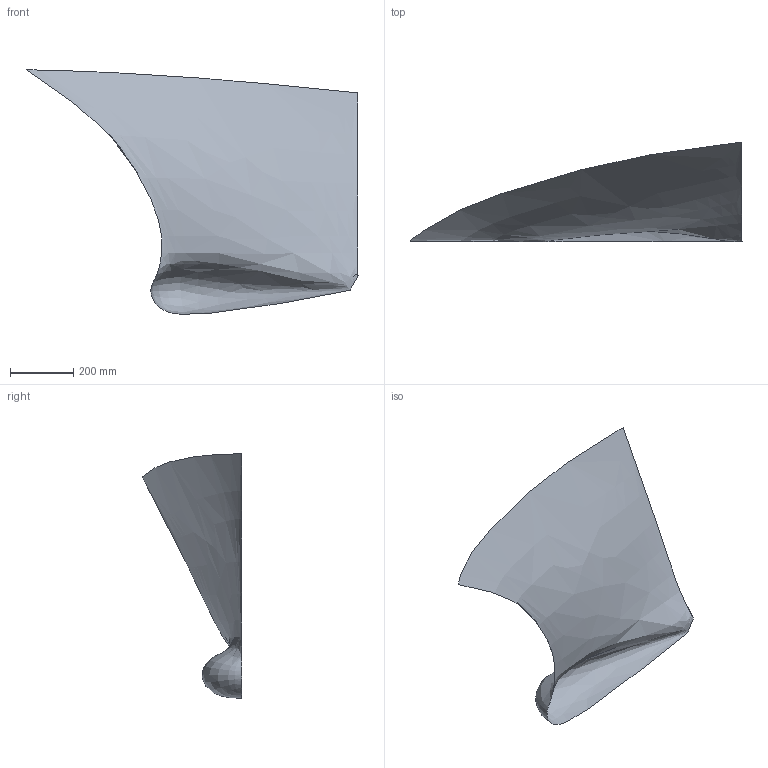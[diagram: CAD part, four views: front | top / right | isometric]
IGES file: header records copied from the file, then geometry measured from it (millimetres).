
Global section: file name: Filename.iges; native system: Open CASCADE 6.5; preprocessor: Open CASCADE IGES processor 6.5; author: amola; date: 20140926.165225; units: metre
Bounding box: 1049.37 x 314.45 x 772.46 mm (x, y, z)
Surface area: 642837 mm2 (no closed solid volume)
Topology: 0 solids, 0 shells, 1 faces, 4 edges, 4 vertices
Faces by surface type: bspline 1
